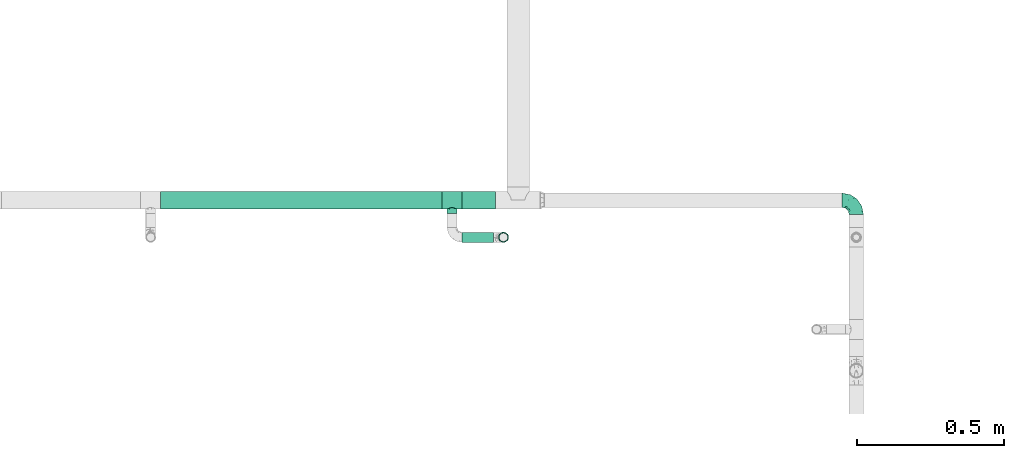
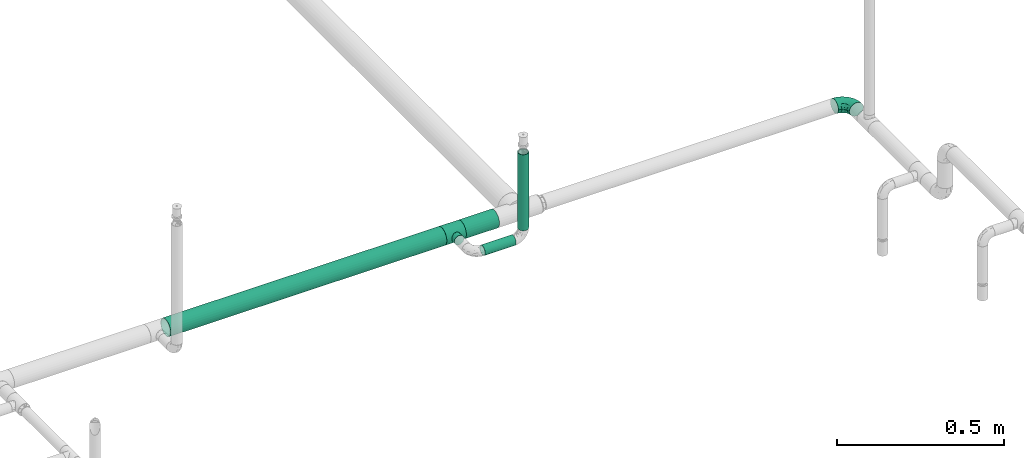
# One storey, part 10 of 157: 4 flow segments, 2 flow fittings.
"""IFC2X3 building model written with IfcOpenShell, lengths in millimetres."""

from ifc_helpers import new_model, entity, si_unit, converted_unit, derived_unit, direction, frame, origin_with_axes, origin_2d_with_axis, place, context, subcontext, project, spatial, hollow_circle, extrude, open_shell, surface_model, source, transform, mapped, type_object, element, save


model = new_model("IFC2X3")

# Units and contexts
model_context = context("Model", 3, precision=0.01, world=frame((0.0, 4.29681676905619e-09, 0.0)), true_north=direction((4.01073788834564e-13, 1.0)))
plan_context = context("Plan", 3, precision=0.01, world=frame((0.0, 4.29681676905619e-09, 0.0)), true_north=direction((4.01073788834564e-13, 1.0)))
body_context = subcontext(model_context, "Body", "Model", "MODEL_VIEW")
ifc_project = project(units=[converted_unit("PLANEANGLEUNIT", "DEGREE", entity("IfcPositiveLengthMeasure", 0.0174532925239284), si_unit("PLANEANGLEUNIT", "RADIAN"), dimensions=[0, 0, 0, 0, 0, 0, 0]), si_unit("AREAUNIT", "SQUARE_METRE"), si_unit("LENGTHUNIT", "METRE", prefix="MILLI"), si_unit("MASSUNIT", "GRAM", prefix="KILO"), si_unit("POWERUNIT", "WATT"), si_unit("PRESSUREUNIT", "PASCAL"), si_unit("FORCEUNIT", "NEWTON", prefix="KILO"), si_unit("ELECTRICCURRENTUNIT", "AMPERE"), si_unit("THERMODYNAMICTEMPERATUREUNIT", "DEGREE_CELSIUS"), si_unit("TIMEUNIT", "SECOND"), si_unit("VOLUMEUNIT", "CUBIC_METRE"), derived_unit("LINEARVELOCITYUNIT", [(si_unit("LENGTHUNIT", "METRE"), 1), (si_unit("TIMEUNIT", "SECOND"), -1)]), derived_unit("VOLUMETRICFLOWRATEUNIT", [(si_unit("VOLUMEUNIT", "CUBIC_METRE"), 1), (si_unit("TIMEUNIT", "SECOND"), -1)]), derived_unit("THERMALTRANSMITTANCEUNIT", [(si_unit("POWERUNIT", "WATT"), 1), (si_unit("THERMODYNAMICTEMPERATUREUNIT", "KELVIN"), -1), (si_unit("AREAUNIT", "SQUARE_METRE"), -1)])], contexts=[model_context, plan_context])

# Site, building, storey
site_placement = place(None, frame((0.0, -4.29681676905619e-09, 0.0), z_axis=(0.0, 0.0, 1.0), x_axis=(1.0, 0.0, 0.0)))
site = spatial("IfcSite", under=ifc_project, at=site_placement, CompositionType="ELEMENT")
building_placement = place(site_placement, frame((0.0, 4.29681676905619e-09, 0.0), z_axis=(0.0, 0.0, 1.0), x_axis=(1.0, 0.0, 0.0)))
building = spatial("IfcBuilding", under=site, at=building_placement, Name="mc-building", CompositionType="ELEMENT")
storey_placement = place(building_placement, frame((0.0, 0.0, 204000.0), z_axis=(0.0, 0.0, 1.0), x_axis=(1.0, 0.0, 0.0)))
storey = spatial("IfcBuildingStorey", under=building, at=storey_placement, Name="Nivå D", CompositionType="ELEMENT", Elevation=204000.0)

# Flow fittings
pipe_fitting_type_1 = type_object("IfcPipeFittingType", Name="magi_pipe_fe_elbow_short_001", PredefinedType="BEND")
shared_shape_1 = source(origin_with_axes(), body_context, "Body", "SurfaceModel", [
    surface_model("IfcShellBasedSurfaceModel", [(-48.4, 6.26342, -23.37541), (-48.4, 0.0, -24.2), (-48.4, 17.11198, -17.11198), (-48.4, 12.1, -20.95781), (-48.4, 23.37541, -6.26342), (-48.4, 20.95781, -12.1), (-48.4, -12.1, -20.95781), (-48.4, -17.11198, -17.11198), (-48.4, -20.95781, -12.1), (-48.4, -6.26342, -23.37541), (-48.4, -23.37541, -6.26342), (-48.4, -24.2, 0.0), (-48.4, -23.37541, 6.26342), (-48.4, 23.37541, 6.26342), (-48.4, 6.26342, 23.37541), (-48.4, 20.95781, 12.1), (-48.4, 17.11198, 17.11198), (-48.4, 12.1, 20.95781), (-48.4, -12.1, 20.95781), (-48.4, -20.95781, 12.1), (-48.4, -17.11198, 17.11198), (-48.4, -6.26342, 23.37541), (-48.4, 0.0, 24.2), (-48.4, 24.2, 0.0), (-17.11198, 48.4, -17.11198), (0.0, 48.4, -24.2), (-6.26342, 48.4, -23.37541), (-12.1, 48.4, -20.95781), (-20.95781, 48.4, -12.1), (-23.37541, 48.4, -6.26342), (12.1, 48.4, -20.95781), (20.95781, 48.4, -12.1), (17.11198, 48.4, -17.11198), (6.26342, 48.4, -23.37541), (23.37541, 48.4, -6.26342), (23.37541, 48.4, 6.26342), (24.2, 48.4, 0.0), (-23.37541, 48.4, 6.26342), (-6.26342, 48.4, 23.37541), (-17.11198, 48.4, 17.11198), (-20.95781, 48.4, 12.1), (-12.1, 48.4, 20.95781), (12.1, 48.4, 20.95781), (17.11198, 48.4, 17.11198), (20.95781, 48.4, 12.1), (0.0, 48.4, 24.2), (6.26342, 48.4, 23.37541), (-24.2, 48.4, 0.0), (-35.50368, -18.80076, 13.58523), (-31.77913, -13.9618, 18.03279), (-34.50859, -21.43683, 0.0), (-21.39243, -15.41147, 12.21413), (-32.16301, -21.12203, 7.54749), (21.12203, 32.16301, 7.54749), (17.07617, 18.95745, 6.20374), (18.67365, 20.61718, 0.0), (-23.65565, 38.62451, 10.51816), (-20.21592, 37.67665, 15.89859), (-35.56981, -9.15108, 21.77256), (-36.96985, -3.20584, 23.78612), (-33.88786, 3.70953, 24.15875), (-8.84062, -10.8048, 0.0), (-18.95745, -17.07617, 6.20374), (-20.61718, -18.67365, 0.0), (-18.69715, -5.87343, 20.10488), (-24.09336, -0.21717, 23.45593), (-2.08262, -4.09091, 10.90396), (-0.40561, 0.49936, 14.45569), (-8.22634, -5.79523, 14.90978), (-37.83027, 20.17367, 15.88169), (-8.41063, 23.79825, 24.15658), (-17.92529, 17.92529, 23.61199), (-14.40991, 10.5752, 24.07534), (-41.86919, 14.6551, 19.71874), (-9.03342, 41.7434, 22.66763), (-3.31671, 36.19978, 24.14056), (-38.63654, 23.65174, 10.51655), (-38.25939, 25.77657, 5.32075), (-30.0475, 30.0475, 9.04616), (-37.30448, 9.49113, 22.86036), (-6.31688, 16.20853, 23.76192), (-12.02449, 4.43954, 22.59792), (-2.47225, 13.07459, 22.23951), (-4.32281, 4.32281, 19.78555), (13.9618, 31.77913, 18.03279), (15.41147, 21.39243, 12.21413), (18.80076, 35.50367, 13.58523), (-25.72741, 16.42033, 22.38358), (-26.59277, 10.36599, 23.76692), (3.20584, 36.96985, 23.78612), (9.15107, 35.56981, 21.77256), (5.87343, 18.69715, 20.10488), (21.43683, 34.50859, 0.0), (-23.74657, 5.93004, 24.18967), (-22.40302, 25.55556, 19.88516), (-33.3245, 16.42738, 20.3789), (-25.47357, 39.04012, 5.19167), (-30.32947, 31.74105, 4.25904), (11.04589, 19.60124, 16.55181), (-27.44219, 36.3, 0.0), (-10.46605, 32.79159, 23.04712), (-13.80953, 25.05111, 23.26361), (-17.54489, 31.27863, 20.33941), (-19.27982, 23.42922, 22.01925), (-14.78447, 40.57947, 19.81913), (-19.60124, -11.04589, 16.55181), (-25.09785, 32.07921, 13.69695), (-25.5093, 27.02629, 17.14196), (-31.08127, 26.00324, 13.49448), (0.21717, 24.09336, 23.45593), (5.51075, 8.40547, 15.32867), (-11.48597, -10.80284, 11.35932), (1.43689, -3.14326, 6.54995), (7.34882, 4.31024, 8.4514), (7.50574, 2.51208, 3.62663), (12.46453, 10.09451, 5.71609), (12.1504, 12.55391, 10.15678), (-36.3, 27.44219, 0.0), (-6.52237, -9.62364, 7.02633), (2.93595, -2.93595, 0.0), (10.8048, 8.84062, 0.0), (-19.60124, -11.04589, -16.55181), (-31.77913, -13.9618, -18.03279), (-18.69715, -5.87343, -20.10488), (-21.39243, -15.41147, -12.21413), (-37.67665, 20.21591, -15.89859), (-40.57947, 14.78447, -19.81913), (-39.04012, 25.47357, -5.19167), (-32.16301, -21.12203, -7.54749), (-30.0475, 30.0475, -9.04616), (-38.62452, 23.65565, -10.51816), (-18.95745, -17.07617, -6.20374), (-23.42922, 19.27982, -22.01926), (-25.05111, 13.80953, -23.26361), (-31.27863, 17.54489, -20.33941), (-14.6551, 41.86919, -19.71874), (-20.17367, 37.83026, -15.88169), (9.15108, 35.56981, -21.77256), (5.87343, 18.69715, -20.10488), (0.21717, 24.09336, -23.45593), (-41.7434, 9.03342, -22.66763), (-35.50368, -18.80076, -13.58523), (-35.56981, -9.15108, -21.77256), (-16.42033, 25.72741, -22.38358), (-9.49113, 37.30447, -22.86036), (-10.36599, 26.59277, -23.76692), (-36.96985, -3.20584, -23.78612), (-23.79826, 8.41063, -24.15658), (-17.92529, 17.92529, -23.61199), (-10.5752, 14.40991, -24.07534), (-36.19978, 3.31671, -24.14056), (-25.77657, 38.25939, -5.32075), (-23.65174, 38.63654, -10.51655), (-32.79159, 10.46605, -23.04712), (-31.74105, 30.32946, -4.25904), (-5.93004, 23.74657, -24.18967), (-25.55556, 22.40302, -19.88516), (-16.42738, 33.3245, -20.3789), (3.20584, 36.96985, -23.78612), (-3.70953, 33.88785, -24.15875), (18.80076, 35.50367, -13.58523), (13.9618, 31.77913, -18.03279), (7.50574, 2.51208, -3.62663), (12.46453, 10.09451, -5.71609), (-16.20853, 6.31688, -23.76192), (-4.43954, 12.02449, -22.59792), (-13.07459, 2.47225, -22.23951), (1.43689, -3.14326, -6.54995), (-6.52237, -9.62364, -7.02632), (-2.08262, -4.09091, -10.90396), (15.41147, 21.39243, -12.21413), (21.12203, 32.16301, -7.54749), (17.07617, 18.95745, -6.20374), (-32.07921, 25.09785, -13.69695), (11.04589, 19.60124, -16.55181), (12.1504, 12.55391, -10.15678), (5.51075, 8.40547, -15.32867), (-27.02629, 25.5093, -17.14196), (-26.00324, 31.08127, -13.49448), (-24.09336, -0.21717, -23.45593), (-4.32281, 4.32281, -19.78555), (-8.22634, -5.79524, -14.90978), (-11.48597, -10.80284, -11.35931), (-0.40561, 0.49936, -14.45569), (7.34882, 4.31024, -8.4514)], [open_shell([[[0, 1, 2]], [[3, 0, 2]], [[4, 5, 2]], [[6, 2, 1]], [[4, 2, 6]], [[7, 8, 6]], [[1, 9, 6]], [[8, 10, 6]], [[6, 10, 4]], [[11, 12, 10]], [[13, 4, 10]], [[14, 13, 10]], [[15, 13, 16]], [[13, 14, 17]], [[16, 13, 17]], [[10, 18, 14]], [[19, 20, 12]], [[20, 10, 12]], [[21, 22, 18]], [[20, 18, 10]], [[18, 22, 14]], [[23, 4, 13]], [[24, 25, 26]], [[24, 26, 27]], [[24, 28, 29]], [[25, 24, 30]], [[30, 24, 29]], [[30, 31, 32]], [[30, 33, 25]], [[30, 34, 31]], [[29, 34, 30]], [[34, 35, 36]], [[34, 29, 37]], [[34, 37, 38]], [[39, 37, 40]], [[41, 38, 37]], [[41, 37, 39]], [[38, 42, 34]], [[35, 43, 44]], [[35, 34, 43]], [[42, 45, 46]], [[34, 42, 43]], [[38, 45, 42]], [[37, 29, 47]], [[20, 48, 49]], [[12, 11, 50]], [[51, 48, 52]], [[53, 54, 55]], [[48, 20, 19]], [[12, 52, 19]], [[40, 56, 57]], [[49, 18, 20]], [[49, 58, 18]], [[22, 59, 60]], [[61, 62, 63]], [[58, 64, 65]], [[66, 67, 68]], [[15, 16, 69]], [[70, 71, 72]], [[17, 73, 16]], [[21, 59, 22]], [[38, 74, 75]], [[22, 60, 14]], [[15, 69, 76]], [[16, 73, 69]], [[23, 13, 77]], [[13, 15, 76]], [[77, 76, 78]], [[14, 79, 17]], [[80, 81, 82]], [[68, 83, 64]], [[84, 43, 42]], [[85, 86, 84]], [[87, 79, 88]], [[18, 58, 21]], [[45, 89, 46]], [[53, 35, 44]], [[45, 38, 75]], [[84, 90, 91]], [[44, 86, 53]], [[92, 35, 53]], [[86, 44, 43]], [[90, 42, 46]], [[53, 55, 92]], [[88, 93, 72]], [[54, 53, 85]], [[87, 94, 95]], [[78, 96, 97]], [[98, 84, 91]], [[99, 96, 47]], [[79, 14, 60]], [[96, 78, 56]], [[62, 52, 63]], [[57, 39, 40]], [[100, 70, 75]], [[101, 102, 103]], [[12, 50, 52]], [[104, 41, 39]], [[74, 38, 41]], [[57, 102, 104]], [[105, 64, 49]], [[90, 84, 42]], [[40, 37, 56]], [[56, 106, 57]], [[102, 57, 107]], [[95, 107, 69]], [[76, 108, 78]], [[100, 101, 70]], [[89, 75, 109]], [[64, 58, 49]], [[63, 52, 50]], [[59, 58, 65]], [[105, 49, 51]], [[64, 83, 81]], [[89, 90, 46]], [[36, 35, 92]], [[109, 82, 91]], [[109, 91, 90]], [[91, 83, 110]], [[111, 68, 105]], [[66, 68, 111]], [[62, 51, 52]], [[66, 112, 113]], [[114, 115, 113]], [[98, 85, 84]], [[52, 48, 19]], [[49, 48, 51]], [[84, 86, 43]], [[53, 86, 85]], [[88, 79, 60]], [[73, 79, 95]], [[96, 56, 37]], [[78, 108, 106]], [[87, 103, 94]], [[100, 74, 104]], [[108, 69, 107]], [[78, 97, 77]], [[88, 72, 71]], [[109, 75, 70]], [[81, 72, 65]], [[70, 72, 80]], [[75, 89, 45]], [[90, 89, 109]], [[58, 59, 21]], [[60, 59, 65]], [[67, 83, 68]], [[110, 113, 116]], [[88, 60, 93]], [[87, 88, 71]], [[103, 87, 71]], [[79, 87, 95]], [[101, 103, 71]], [[94, 103, 102]], [[47, 96, 37]], [[96, 99, 97]], [[99, 117, 97]], [[97, 117, 77]], [[23, 77, 117]], [[13, 76, 77]], [[60, 65, 93]], [[65, 72, 93]], [[70, 101, 71]], [[102, 101, 100]], [[69, 108, 76]], [[106, 108, 107]], [[57, 106, 107]], [[78, 106, 56]], [[57, 104, 39]], [[100, 104, 102]], [[102, 107, 94]], [[95, 94, 107]], [[64, 81, 65]], [[82, 81, 83]], [[91, 82, 83]], [[80, 82, 109]], [[70, 80, 109]], [[81, 80, 72]], [[79, 73, 17]], [[69, 73, 95]], [[104, 74, 41]], [[75, 74, 100]], [[62, 61, 118]], [[111, 62, 118]], [[113, 115, 116]], [[119, 118, 61]], [[111, 105, 51]], [[113, 112, 114]], [[120, 55, 54]], [[68, 64, 105]], [[91, 110, 98]], [[116, 98, 110]], [[62, 111, 51]], [[66, 111, 118]], [[112, 66, 118]], [[67, 113, 110]], [[118, 119, 112]], [[114, 112, 119]], [[119, 120, 114]], [[115, 120, 54]], [[120, 115, 114]], [[116, 54, 85]], [[54, 116, 115]], [[116, 85, 98]], [[113, 67, 66]], [[83, 67, 110]], [[121, 122, 123]], [[122, 121, 124]], [[5, 125, 2]], [[2, 126, 3]], [[117, 127, 23]], [[50, 10, 128]], [[127, 129, 130]], [[128, 131, 63]], [[132, 133, 134]], [[24, 135, 136]], [[137, 138, 139]], [[3, 140, 0]], [[128, 8, 141]], [[142, 6, 9]], [[128, 63, 50]], [[5, 4, 130]], [[8, 7, 141]], [[143, 144, 145]], [[146, 9, 1]], [[147, 148, 149]], [[8, 128, 10]], [[124, 141, 122]], [[150, 1, 0]], [[151, 152, 129]], [[125, 134, 126]], [[153, 147, 150]], [[127, 154, 129]], [[145, 155, 149]], [[47, 29, 151]], [[143, 156, 157]], [[152, 29, 28]], [[25, 158, 159]], [[122, 7, 6]], [[24, 27, 135]], [[144, 27, 26]], [[32, 160, 161]], [[25, 33, 158]], [[120, 162, 163]], [[130, 125, 5]], [[24, 136, 28]], [[0, 140, 150]], [[30, 161, 137]], [[142, 122, 6]], [[25, 159, 26]], [[164, 165, 166]], [[167, 168, 169]], [[31, 160, 32]], [[161, 30, 32]], [[170, 160, 171]], [[131, 128, 124]], [[36, 92, 34]], [[34, 92, 171]], [[172, 171, 55]], [[34, 171, 31]], [[144, 26, 159]], [[130, 173, 125]], [[174, 175, 176]], [[136, 152, 28]], [[30, 137, 33]], [[122, 142, 123]], [[134, 125, 177]], [[157, 177, 136]], [[152, 178, 129]], [[153, 133, 147]], [[146, 150, 179]], [[146, 142, 9]], [[11, 10, 50]], [[179, 166, 123]], [[179, 123, 142]], [[123, 180, 181]], [[138, 137, 161]], [[55, 171, 92]], [[158, 137, 139]], [[174, 161, 170]], [[138, 180, 165]], [[180, 138, 176]], [[124, 121, 182]], [[176, 183, 180]], [[61, 131, 168]], [[169, 168, 182]], [[172, 170, 171]], [[122, 141, 7]], [[128, 141, 124]], [[171, 160, 31]], [[161, 160, 170]], [[145, 144, 159]], [[135, 144, 157]], [[127, 130, 4]], [[129, 178, 173]], [[143, 132, 156]], [[153, 140, 126]], [[178, 136, 177]], [[129, 154, 151]], [[145, 149, 148]], [[179, 150, 147]], [[165, 149, 139]], [[147, 149, 164]], [[150, 146, 1]], [[142, 146, 179]], [[137, 158, 33]], [[159, 158, 139]], [[174, 138, 161]], [[184, 169, 183]], [[145, 159, 155]], [[143, 145, 148]], [[132, 143, 148]], [[144, 143, 157]], [[133, 132, 148]], [[156, 132, 134]], [[23, 127, 4]], [[127, 117, 154]], [[117, 99, 154]], [[154, 99, 151]], [[47, 151, 99]], [[29, 152, 151]], [[159, 139, 155]], [[139, 149, 155]], [[147, 133, 148]], [[134, 133, 153]], [[136, 178, 152]], [[173, 178, 177]], [[125, 173, 177]], [[129, 173, 130]], [[125, 126, 2]], [[153, 126, 134]], [[134, 177, 156]], [[157, 156, 177]], [[138, 165, 139]], [[166, 165, 180]], [[123, 166, 180]], [[164, 166, 179]], [[147, 164, 179]], [[165, 164, 149]], [[144, 135, 27]], [[136, 135, 157]], [[126, 140, 3]], [[150, 140, 153]], [[182, 131, 124]], [[168, 119, 61]], [[119, 167, 162]], [[63, 131, 61]], [[172, 163, 175]], [[172, 55, 120]], [[123, 181, 121]], [[182, 121, 181]], [[175, 174, 170]], [[176, 138, 174]], [[169, 182, 181]], [[131, 182, 168]], [[183, 169, 181]], [[167, 169, 184]], [[162, 167, 184]], [[119, 168, 167]], [[163, 162, 184]], [[120, 119, 162]], [[175, 163, 184]], [[120, 163, 172]], [[176, 175, 184]], [[172, 175, 170]], [[180, 183, 181]], [[184, 183, 176]]])]),
])
flow_fitting_1_placement = place(storey_placement, frame((521635.35, 414039.35389, 2690.0), z_axis=(0.0, 0.0, 1.0), x_axis=(0.0, 1.0, 0.0)))
element("IfcFlowFitting", 1, at=flow_fitting_1_placement, inside=storey, type_object=pipe_fitting_type_1, Name="magi_pipe_fe_elbow_short_001", context=body_context, shape_type="MappedRepresentation", body=[
    mapped(shared_shape_1, transform((0.0, 0.0, 0.0), scale=1.0)),
])
pipe_fitting_type_2 = type_object("IfcPipeFittingType", Name="magi_pipe_fe_tee_centric_90_NOR", PredefinedType="JUNCTION")
shared_shape_2 = source(origin_with_axes(), body_context, "Body", "SurfaceModel", [
    surface_model("IfcShellBasedSurfaceModel", [(-33.8, 15.1, -26.15397), (-33.8, 7.81634, -29.17096), (-33.8, 0.0, -30.2), (-33.8, 29.17096, -7.81634), (-33.8, 26.15397, -15.1), (-33.8, 21.35462, -21.35462), (-33.8, 30.2, 0.0), (-33.8, -30.2, 0.0), (-33.8, -15.1, -26.15397), (-33.8, -21.35462, -21.35462), (-33.8, -7.81634, -29.17096), (-33.8, -26.15397, -15.1), (-33.8, -29.17096, -7.81634), (-33.8, 26.15397, 15.1), (-33.8, 29.17096, 7.81634), (-33.8, 15.1, 26.15397), (-33.8, -21.35462, 21.35462), (-33.8, 21.35462, 21.35462), (-33.8, 7.81634, 29.17096), (-33.8, -29.17096, 7.81634), (-33.8, -26.15397, 15.1), (-33.8, -7.81634, 29.17096), (-33.8, 0.0, 30.2), (-33.8, -15.1, 26.15397), (33.8, 29.17096, -7.81634), (33.8, 0.0, -30.2), (33.8, 7.81634, -29.17096), (33.8, 21.35462, -21.35462), (33.8, 15.1, -26.15397), (33.8, 26.15397, -15.1), (33.8, -30.2, 0.0), (33.8, -7.81634, -29.17096), (33.8, -21.35462, -21.35462), (33.8, -15.1, -26.15397), (33.8, -29.17096, -7.81634), (33.8, -26.15397, -15.1), (33.8, 30.2, 0.0), (33.8, 29.17096, 7.81634), (33.8, 26.15397, 15.1), (33.8, -29.17096, 7.81634), (33.8, 15.1, 26.15397), (33.8, 7.81634, 29.17096), (33.8, 21.35462, 21.35462), (33.8, -21.35462, 21.35462), (33.8, -26.15397, 15.1), (33.8, -15.1, 26.15397), (33.8, 0.0, 30.2), (33.8, -7.81634, 29.17096), (33.8, -29.68548, 3.90817), (15.846, -29.62306, 5.87488), (16.373, -29.91153, 2.93744), (12.91037, -28.16217, 10.90561), (2.99213, -25.2068, 16.63301), (16.9, -30.2, 0.0), (33.8, -27.66246, 11.45817), (8.50854, -26.43531, 14.60187), (-8.51006, -26.43579, 14.60099), (-33.8, -27.66246, 11.45817), (-12.91447, -28.16405, 10.90075), (-15.84655, -29.62335, 5.87341), (-33.8, -29.68548, 3.90817), (-16.37327, -29.91168, 2.93671), (-16.9, -30.2, 0.0), (-2.99705, -25.20739, 16.63213), (2.99213, -25.2068, -16.63301), (-16.37327, -29.91168, -2.93671), (8.50854, -26.43531, -14.60187), (33.8, -27.66246, -11.45817), (16.373, -29.91153, -2.93744), (-33.8, -29.68548, -3.90817), (-15.84655, -29.62335, -5.87341), (15.846, -29.62306, -5.87488), (12.91037, -28.16217, -10.90561), (33.8, -29.68548, -3.90817), (-2.99705, -25.20739, -16.63213), (-8.51006, -26.43579, -14.60099), (-12.91447, -28.16405, -10.90075), (-33.8, -27.66246, -11.45817), (4.37404, -45.3, -16.32415), (-16.9, -45.3, 0.0), (0.0, -45.3, -16.9), (14.63583, -45.3, -8.45), (8.45, -45.3, -14.63583), (16.32415, -45.3, -4.37404), (11.9501, -45.3, -11.9501), (-11.9501, -45.3, -11.9501), (-8.45, -45.3, -14.63583), (-4.37404, -45.3, -16.32415), (-14.63583, -45.3, -8.45), (-16.32415, -45.3, -4.37404), (16.9, -45.3, 0.0), (8.45, -45.3, 14.63583), (16.32415, -45.3, 4.37404), (14.63583, -45.3, 8.45), (-8.45, -45.3, 14.63583), (11.9501, -45.3, 11.9501), (4.37404, -45.3, 16.32415), (-16.32415, -45.3, 4.37404), (-11.9501, -45.3, 11.9501), (-14.63583, -45.3, 8.45), (0.0, -45.3, 16.9), (-4.37404, -45.3, 16.32415), (-5.75355, -25.82159, 15.61656), (-0.00246, -25.20709, 16.63257), (5.75034, -25.82105, 15.61744), (5.75034, -25.82105, -15.61744), (-0.00246, -25.20709, -16.63257), (-5.75355, -25.82159, -15.61656)], [open_shell([[[0, 1, 2]], [[3, 0, 2]], [[0, 3, 4]], [[5, 0, 4]], [[6, 2, 7]], [[8, 9, 10]], [[9, 2, 10]], [[11, 12, 9]], [[7, 9, 12]], [[9, 7, 2]], [[6, 3, 2]], [[13, 14, 6]], [[7, 15, 13]], [[7, 16, 15]], [[17, 13, 15]], [[18, 15, 16]], [[19, 20, 7]], [[7, 20, 16]], [[21, 22, 23]], [[16, 23, 22]], [[16, 22, 18]], [[7, 13, 6]], [[24, 25, 26]], [[27, 26, 28]], [[29, 24, 26]], [[29, 26, 27]], [[25, 24, 30]], [[31, 32, 33]], [[32, 31, 34]], [[32, 34, 35]], [[34, 31, 30]], [[31, 25, 30]], [[24, 36, 30]], [[36, 37, 38]], [[39, 36, 38]], [[40, 41, 38]], [[40, 38, 42]], [[43, 38, 41]], [[39, 43, 44]], [[39, 38, 43]], [[45, 46, 47]], [[46, 45, 43]], [[41, 46, 43]], [[36, 39, 30]], [[48, 39, 49]], [[30, 48, 50]], [[39, 51, 49]], [[44, 43, 52]], [[30, 50, 53]], [[51, 54, 55]], [[52, 55, 44]], [[48, 49, 50]], [[43, 16, 52]], [[55, 54, 44]], [[56, 57, 58]], [[59, 60, 61]], [[62, 61, 7]], [[59, 58, 19]], [[56, 63, 20]], [[51, 39, 54]], [[20, 57, 56]], [[20, 63, 16]], [[58, 57, 19]], [[63, 52, 16]], [[7, 61, 60]], [[59, 19, 60]], [[43, 23, 16]], [[22, 47, 46]], [[21, 45, 47]], [[18, 46, 41]], [[38, 37, 14]], [[17, 40, 42]], [[13, 42, 38]], [[41, 40, 15]], [[6, 37, 36]], [[23, 45, 21]], [[21, 47, 22]], [[18, 22, 46]], [[41, 15, 18]], [[15, 40, 17]], [[13, 17, 42]], [[14, 13, 38]], [[37, 6, 14]], [[45, 23, 43]], [[4, 24, 29]], [[3, 36, 24]], [[5, 29, 27]], [[25, 31, 10]], [[1, 28, 26]], [[2, 26, 25]], [[27, 28, 0]], [[8, 31, 33]], [[6, 36, 3]], [[3, 24, 4]], [[5, 4, 29]], [[27, 0, 5]], [[0, 28, 1]], [[2, 1, 26]], [[10, 2, 25]], [[31, 8, 10]], [[33, 9, 8]], [[32, 35, 64]], [[7, 65, 62]], [[66, 64, 35]], [[67, 66, 35]], [[32, 64, 9]], [[53, 68, 30]], [[69, 70, 65]], [[71, 72, 34]], [[71, 73, 68]], [[66, 67, 72]], [[34, 72, 67]], [[74, 75, 11]], [[76, 12, 77]], [[11, 9, 74]], [[76, 77, 75]], [[74, 9, 64]], [[76, 70, 12]], [[71, 34, 73]], [[70, 69, 12]], [[65, 7, 69]], [[30, 68, 73]], [[77, 11, 75]], [[32, 9, 33]], [[78, 79, 80]], [[81, 78, 82]], [[81, 83, 78]], [[81, 82, 84]], [[79, 78, 83]], [[80, 85, 86]], [[86, 87, 80]], [[88, 79, 89]], [[85, 80, 88]], [[79, 88, 80]], [[83, 90, 79]], [[91, 90, 92]], [[91, 92, 93]], [[94, 79, 91]], [[91, 93, 95]], [[94, 91, 96]], [[97, 98, 99]], [[98, 97, 94]], [[94, 100, 101]], [[97, 79, 94]], [[96, 100, 94]], [[91, 79, 90]], [[97, 61, 79]], [[58, 99, 98]], [[97, 99, 59]], [[98, 94, 56]], [[61, 62, 79]], [[59, 99, 58]], [[101, 63, 102]], [[56, 58, 98]], [[100, 52, 103]], [[91, 104, 96]], [[100, 96, 52]], [[50, 49, 92]], [[50, 90, 53]], [[104, 91, 55]], [[102, 94, 101]], [[102, 56, 94]], [[100, 63, 101]], [[97, 59, 61]], [[55, 91, 95]], [[95, 51, 55]], [[52, 96, 104]], [[92, 49, 93]], [[90, 50, 92]], [[93, 49, 51]], [[93, 51, 95]], [[103, 63, 100]], [[83, 68, 90]], [[72, 81, 84]], [[83, 81, 71]], [[84, 82, 66]], [[68, 53, 90]], [[71, 81, 72]], [[78, 64, 105]], [[66, 72, 84]], [[80, 74, 106]], [[86, 107, 87]], [[65, 70, 89]], [[105, 82, 78]], [[105, 66, 82]], [[75, 86, 85]], [[83, 71, 68]], [[70, 88, 89]], [[65, 79, 62]], [[85, 88, 76]], [[80, 64, 78]], [[87, 107, 74]], [[74, 80, 87]], [[75, 107, 86]], [[75, 85, 76]], [[76, 88, 70]], [[79, 65, 89]], [[106, 64, 80]]])]),
])
flow_fitting_2_placement = place(storey_placement, frame((520260.35, 414039.35389, 2690.0), z_axis=(0.0, 0.0, 1.0), x_axis=(1.0, 0.0, 0.0)))
element("IfcFlowFitting", 2, at=flow_fitting_2_placement, inside=storey, type_object=pipe_fitting_type_2, Name="magi_pipe_fe_tee_centric_90_NOR", context=body_context, shape_type="MappedRepresentation", body=[
    mapped(shared_shape_2, transform((0.0, 0.0, 0.0), scale=1.0)),
])

# Flow segments
pipe_segment_type = type_object("IfcPipeSegmentType", Name="Stålrør normaltykke", PredefinedType="RIGIDSEGMENT")
shared_shape_3 = source(origin_with_axes(), body_context, "Body", "SweptSolid", [
    extrude(hollow_circle(Radius=16.9, WallThickness=2.0, at=origin_2d_with_axis()), frame((0.0, 0.0, 0.0), z_axis=(1.0, 0.0, 0.0), x_axis=(0.0, 1.0, 0.0)), (0.0, 0.0, 1.0), 278.3),
])
flow_segment_1_placement = place(storey_placement, frame((520435.35, 413913.20018, 3002.14799999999), z_axis=(0.0, 1.0, 0.0), x_axis=(0.0, 0.0, -1.0)))
element("IfcFlowSegment", 3, at=flow_segment_1_placement, inside=storey, type_object=pipe_segment_type, Name="Stålrør normaltykke", context=body_context, shape_type="MappedRepresentation", body=[
    mapped(shared_shape_3, transform((0.0, 0.0, 0.0), scale=1.0)),
])
shared_shape_4 = source(origin_with_axes(), body_context, "Body", "SweptSolid", [
    extrude(hollow_circle(Radius=30.1, WallThickness=2.0, at=origin_2d_with_axis()), frame((0.0, 0.0, 0.0), z_axis=(1.0, 0.0, 0.0), x_axis=(0.0, 1.0, 0.0)), (0.0, 0.0, 1.0), 957.4),
])
flow_segment_2_placement = place(storey_placement, frame((520226.55, 414039.35389, 2690.0), z_axis=(0.0, 0.0, 1.0), x_axis=(-1.0, 0.0, 0.0)))
element("IfcFlowSegment", 4, at=flow_segment_2_placement, inside=storey, type_object=pipe_segment_type, Name="Stålrør normaltykke", context=body_context, shape_type="MappedRepresentation", body=[
    mapped(shared_shape_4, transform((0.0, 0.0, 0.0), scale=1.0)),
])
shared_shape_5 = source(origin_with_axes(), body_context, "Body", "SweptSolid", [
    extrude(hollow_circle(Radius=16.9, WallThickness=2.0, at=origin_2d_with_axis()), frame((0.0, 0.0, 0.0), z_axis=(1.0, 0.0, 0.0), x_axis=(0.0, 1.0, 0.0)), (0.0, 0.0, 1.0), 107.4),
])
flow_segment_3_placement = place(storey_placement, frame((520401.55, 413913.20018, 2690.0), z_axis=(0.0, 0.0, 1.0), x_axis=(-1.0, 0.0, 0.0)))
element("IfcFlowSegment", 5, at=flow_segment_3_placement, inside=storey, type_object=pipe_segment_type, Name="Stålrør normaltykke", context=body_context, shape_type="MappedRepresentation", body=[
    mapped(shared_shape_5, transform((0.0, 0.0, 0.0), scale=1.0)),
])
shared_shape_6 = source(origin_with_axes(), body_context, "Body", "SweptSolid", [
    extrude(hollow_circle(Radius=30.1, WallThickness=2.0, at=origin_2d_with_axis()), frame((0.0, 0.0, 0.0), z_axis=(1.0, 0.0, 0.0), x_axis=(0.0, 1.0, 0.0)), (0.0, 0.0, 1.0), 114.9),
])
flow_segment_4_placement = place(storey_placement, frame((520409.04954, 414039.35389, 2690.0), z_axis=(0.0, 0.0, 1.0), x_axis=(-1.0, 0.0, 0.0)))
element("IfcFlowSegment", 6, at=flow_segment_4_placement, inside=storey, type_object=pipe_segment_type, Name="Stålrør normaltykke", context=body_context, shape_type="MappedRepresentation", body=[
    mapped(shared_shape_6, transform((0.0, 0.0, 0.0), scale=1.0)),
])

save(model, "model.ifc")
